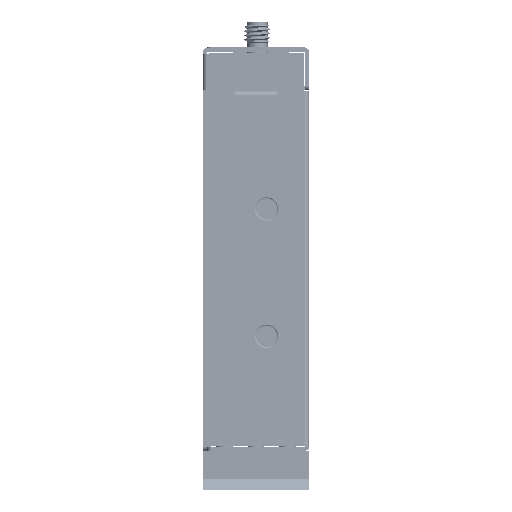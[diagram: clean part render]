
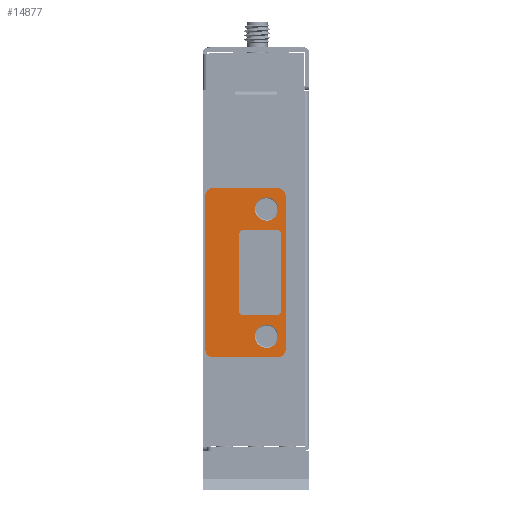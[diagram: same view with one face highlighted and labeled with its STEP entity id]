
A CAD part, front view. The second image highlights one B-rep face of the part: STEP entity #14877.
In plain terms, the highlighted planar face has unit normal (0, -1, 0) as drawn and (0, 0, 1) by its records, which use the part's own axes.
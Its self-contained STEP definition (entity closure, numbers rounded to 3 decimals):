
#12256 = EDGE_CURVE ( 'NONE', #74845, #78829, #344293, .T. ) ;
#14877 = ADVANCED_FACE ( 'NONE', ( #145251, #212169, #361900 ), #43372, .F. ) ;
#18884 = EDGE_CURVE ( 'NONE', #78829, #74845, #202266, .T. ) ;
#29193 = CARTESIAN_POINT ( 'NONE',  ( 32.25, 14.5, 0.8 ) ) ;
#43372 = PLANE ( 'NONE',  #124828 ) ;
#43587 = CARTESIAN_POINT ( 'NONE',  ( 2., 17., 0.8 ) ) ;
#48027 = CARTESIAN_POINT ( 'NONE',  ( 2., 0., 0.8 ) ) ;
#51644 = DIRECTION ( 'NONE',  ( -1., 0., 0. ) ) ;
#52442 = AXIS2_PLACEMENT_3D ( 'NONE', #184251, #322731, #151938 ) ;
#67306 = CIRCLE ( 'NONE', #52442, 2. ) ;
#71305 = CARTESIAN_POINT ( 'NONE',  ( 0., 17., 0.8 ) ) ;
#73609 = CARTESIAN_POINT ( 'NONE',  ( 0., 2., 0.8 ) ) ;
#74845 = VERTEX_POINT ( 'NONE', #29193 ) ;
#75773 = VERTEX_POINT ( 'NONE', #73609 ) ;
#78829 = VERTEX_POINT ( 'NONE', #444298 ) ;
#80439 = DIRECTION ( 'NONE',  ( -1., 0., 0. ) ) ;
#87074 = ORIENTED_EDGE ( 'NONE', *, *, #247485, .T. ) ;
#101033 = DIRECTION ( 'NONE',  ( 1., 0., 0. ) ) ;
#108003 = ORIENTED_EDGE ( 'NONE', *, *, #183106, .T. ) ;
#110018 = EDGE_LOOP ( 'NONE', ( #355521, #216457, #87074, #300259, #308176, #166935, #108003, #187891 ) ) ;
#110152 = EDGE_LOOP ( 'NONE', ( #263197, #157779 ) ) ;
#112685 = CARTESIAN_POINT ( 'NONE',  ( 2., 2., 0.8 ) ) ;
#113547 = CARTESIAN_POINT ( 'NONE',  ( 2., 2., 0.8 ) ) ;
#116892 = VERTEX_POINT ( 'NONE', #48027 ) ;
#117065 = CARTESIAN_POINT ( 'NONE',  ( 2., 0., 0.8 ) ) ;
#118181 = EDGE_CURVE ( 'NONE', #116892, #450218, #292502, .T. ) ;
#124828 = AXIS2_PLACEMENT_3D ( 'NONE', #112685, #318274, #184330 ) ;
#143562 = CARTESIAN_POINT ( 'NONE',  ( 38., 19., 0.8 ) ) ;
#144698 = CIRCLE ( 'NONE', #358390, 2.75 ) ;
#145251 = FACE_BOUND ( 'NONE', #110152, .T. ) ;
#145880 = DIRECTION ( 'NONE',  ( 0., 0., 1. ) ) ;
#151938 = DIRECTION ( 'NONE',  ( 1., 0., 0. ) ) ;
#153785 = VECTOR ( 'NONE', #380057, 1000. ) ;
#154108 = DIRECTION ( 'NONE',  ( 1., 0., 0. ) ) ;
#157779 = ORIENTED_EDGE ( 'NONE', *, *, #209395, .F. ) ;
#158006 = CARTESIAN_POINT ( 'NONE',  ( 38., 17., 0.8 ) ) ;
#162384 = DIRECTION ( 'NONE',  ( 0., 0., 1. ) ) ;
#166935 = ORIENTED_EDGE ( 'NONE', *, *, #364888, .T. ) ;
#168254 = CARTESIAN_POINT ( 'NONE',  ( 5., 14.5, 0.8 ) ) ;
#171451 = VERTEX_POINT ( 'NONE', #71305 ) ;
#171675 = EDGE_CURVE ( 'NONE', #171451, #75773, #202613, .T. ) ;
#180876 = EDGE_CURVE ( 'NONE', #270291, #254290, #235070, .T. ) ;
#183106 = EDGE_CURVE ( 'NONE', #455118, #171451, #361783, .T. ) ;
#184251 = CARTESIAN_POINT ( 'NONE',  ( 38., 2., 0.8 ) ) ;
#184330 = DIRECTION ( 'NONE',  ( 0., -1., 0. ) ) ;
#184401 = EDGE_CURVE ( 'NONE', #444924, #356076, #266458, .T. ) ;
#187891 = ORIENTED_EDGE ( 'NONE', *, *, #171675, .T. ) ;
#196308 = DIRECTION ( 'NONE',  ( 0., 0., 1. ) ) ;
#199196 = AXIS2_PLACEMENT_3D ( 'NONE', #113547, #249806, #325910 ) ;
#200565 = CARTESIAN_POINT ( 'NONE',  ( 40., 2., 0.8 ) ) ;
#202266 = CIRCLE ( 'NONE', #349449, 2.75 ) ;
#202613 = LINE ( 'NONE', #264885, #330551 ) ;
#205386 = CARTESIAN_POINT ( 'NONE',  ( 5., 14.5, 0.8 ) ) ;
#209395 = EDGE_CURVE ( 'NONE', #356076, #444924, #144698, .T. ) ;
#212169 = FACE_BOUND ( 'NONE', #298079, .T. ) ;
#216457 = ORIENTED_EDGE ( 'NONE', *, *, #118181, .T. ) ;
#219121 = CARTESIAN_POINT ( 'NONE',  ( 2.25, 14.5, 0.8 ) ) ;
#221868 = CARTESIAN_POINT ( 'NONE',  ( 38., 0., 0.8 ) ) ;
#226014 = ORIENTED_EDGE ( 'NONE', *, *, #18884, .F. ) ;
#234844 = DIRECTION ( 'NONE',  ( 0., -1., 0. ) ) ;
#235070 = LINE ( 'NONE', #200565, #358614 ) ;
#239171 = LINE ( 'NONE', #282878, #153785 ) ;
#242123 = CIRCLE ( 'NONE', #367336, 2. ) ;
#247485 = EDGE_CURVE ( 'NONE', #450218, #270291, #67306, .T. ) ;
#249806 = DIRECTION ( 'NONE',  ( 0., 0., 1. ) ) ;
#254290 = VERTEX_POINT ( 'NONE', #319341 ) ;
#254829 = CARTESIAN_POINT ( 'NONE',  ( 40., 2., 0.8 ) ) ;
#255682 = VERTEX_POINT ( 'NONE', #143562 ) ;
#263197 = ORIENTED_EDGE ( 'NONE', *, *, #184401, .F. ) ;
#264885 = CARTESIAN_POINT ( 'NONE',  ( 0., 2., 0.8 ) ) ;
#266458 = CIRCLE ( 'NONE', #399185, 2.75 ) ;
#270291 = VERTEX_POINT ( 'NONE', #254829 ) ;
#270580 = ORIENTED_EDGE ( 'NONE', *, *, #12256, .F. ) ;
#282878 = CARTESIAN_POINT ( 'NONE',  ( 2., 19., 0.8 ) ) ;
#286826 = EDGE_CURVE ( 'NONE', #254290, #255682, #242123, .T. ) ;
#292502 = LINE ( 'NONE', #117065, #453993 ) ;
#296265 = CARTESIAN_POINT ( 'NONE',  ( 35., 14.5, 0.8 ) ) ;
#298079 = EDGE_LOOP ( 'NONE', ( #226014, #270580 ) ) ;
#300259 = ORIENTED_EDGE ( 'NONE', *, *, #180876, .T. ) ;
#307768 = DIRECTION ( 'NONE',  ( 0., 0., 1. ) ) ;
#308176 = ORIENTED_EDGE ( 'NONE', *, *, #286826, .T. ) ;
#308961 = DIRECTION ( 'NONE',  ( 0., 0., 1. ) ) ;
#316833 = CIRCLE ( 'NONE', #199196, 2. ) ;
#318274 = DIRECTION ( 'NONE',  ( 0., 0., -1. ) ) ;
#319341 = CARTESIAN_POINT ( 'NONE',  ( 40., 17., 0.8 ) ) ;
#322731 = DIRECTION ( 'NONE',  ( 0., 0., 1. ) ) ;
#325910 = DIRECTION ( 'NONE',  ( -1., 0., 0. ) ) ;
#330551 = VECTOR ( 'NONE', #234844, 1000. ) ;
#335468 = DIRECTION ( 'NONE',  ( 1., 0., 0. ) ) ;
#336991 = DIRECTION ( 'NONE',  ( 1., 0., 0. ) ) ;
#341245 = DIRECTION ( 'NONE',  ( 0., 1., 0. ) ) ;
#344293 = CIRCLE ( 'NONE', #366427, 2.75 ) ;
#349449 = AXIS2_PLACEMENT_3D ( 'NONE', #296265, #162384, #335468 ) ;
#355521 = ORIENTED_EDGE ( 'NONE', *, *, #447367, .T. ) ;
#356076 = VERTEX_POINT ( 'NONE', #219121 ) ;
#358067 = DIRECTION ( 'NONE',  ( 1., 0., 0. ) ) ;
#358390 = AXIS2_PLACEMENT_3D ( 'NONE', #205386, #196308, #336991 ) ;
#358614 = VECTOR ( 'NONE', #341245, 1000. ) ;
#361783 = CIRCLE ( 'NONE', #421102, 2. ) ;
#361900 = FACE_OUTER_BOUND ( 'NONE', #110018, .T. ) ;
#362555 = CARTESIAN_POINT ( 'NONE',  ( 35., 14.5, 0.8 ) ) ;
#364888 = EDGE_CURVE ( 'NONE', #255682, #455118, #239171, .T. ) ;
#366427 = AXIS2_PLACEMENT_3D ( 'NONE', #362555, #145880, #358067 ) ;
#367336 = AXIS2_PLACEMENT_3D ( 'NONE', #158006, #307768, #51644 ) ;
#371529 = CARTESIAN_POINT ( 'NONE',  ( 2., 19., 0.8 ) ) ;
#380057 = DIRECTION ( 'NONE',  ( -1., 0., 0. ) ) ;
#399185 = AXIS2_PLACEMENT_3D ( 'NONE', #168254, #308961, #101033 ) ;
#421102 = AXIS2_PLACEMENT_3D ( 'NONE', #43587, #424848, #80439 ) ;
#424848 = DIRECTION ( 'NONE',  ( 0., 0., 1. ) ) ;
#427747 = CARTESIAN_POINT ( 'NONE',  ( 7.75, 14.5, 0.8 ) ) ;
#444298 = CARTESIAN_POINT ( 'NONE',  ( 37.75, 14.5, 0.8 ) ) ;
#444924 = VERTEX_POINT ( 'NONE', #427747 ) ;
#447367 = EDGE_CURVE ( 'NONE', #75773, #116892, #316833, .T. ) ;
#450218 = VERTEX_POINT ( 'NONE', #221868 ) ;
#453993 = VECTOR ( 'NONE', #154108, 1000. ) ;
#455118 = VERTEX_POINT ( 'NONE', #371529 ) ;
